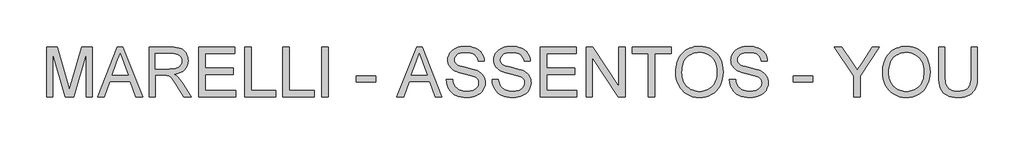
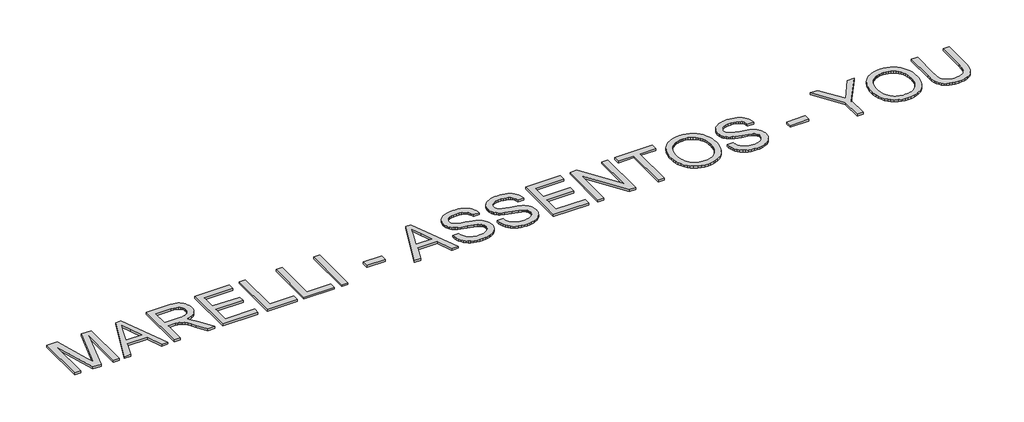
# One storey, part 35 of 35: 1 proxy.
"""IFC4 building model written with IfcOpenShell, lengths in millimetres."""

from ifc_helpers import new_model, si_unit, origin, origin_with_axes, place, context, project, spatial, polyline, outline, extrude, element, save

model = new_model("IFC4")

# Units and contexts
model_context = context("Model", 3, world=origin())
ifc_project = project(units=[si_unit("LENGTHUNIT", "METRE", prefix="MILLI")], contexts=[model_context])

# Site, building, storey
site = spatial("IfcSite", under=ifc_project)
building = spatial("IfcBuilding", under=site)
storey = spatial("IfcBuildingStorey", under=building, Name="Marelli - Linha YOU - Planta Baixa", Elevation=0.0)

# Proxy
placement = place(None, origin())
element("IfcBuildingElementProxy", 1, Name="1200mm Arial", ObjectType="1200mm Arial", at=placement, inside=storey, context=model_context, shape_type="SweptSolid", body=[
    extrude(outline(polyline([(-7871.16834, 28269.4336799), (-7871.16834, 29474.9094017), (-7611.8851098, 29474.9094017), (-7365.2570202, 28625.2491457), (-7315.5193745, 28447.7828712), (-7261.6614504, 28639.9644255), (-7019.1536392, 29474.9094017), (-6759.870409, 29474.9094017), (-6759.870409, 28269.4336799), (-6910.5548742, 28269.4336799), (-6910.5548742, 29324.2249365), (-7213.3953326, 28269.4336799), (-7417.6434164, 28269.4336799), (-7720.4838748, 29324.2249365), (-7720.4838748, 28269.4336799), (-7871.16834, 28269.4336799)])), origin_with_axes(), (0.0, 0.0, 1.0), 50.0),
    extrude(outline(polyline([(-6636.5563642, 28269.4336799), (-6155.3667145, 29474.9094017), (-6027.0494746, 29474.9094017), (-5545.8598249, 28269.4336799), (-5705.0791524, 28269.4336799), (-5843.108477, 28646.144843), (-6339.6020177, 28646.144843), (-6477.3370367, 28269.4336799), (-6636.5563642, 28269.4336799)]), holes=[polyline([(-6284.2725656, 28796.8293082), (-5898.1436235, 28796.8293082), (-6006.7423884, 29093.1950435), (-6091.2080945, 29324.2249365), (-6166.2560216, 29119.093936), (-6284.2725656, 28796.8293082)])]), origin_with_axes(), (0.0, 0.0, 1.0), 50.0),
    extrude(outline(polyline([(-5384.8746638, 28269.4336799), (-5384.8746638, 29474.9094017), (-4865.4252866, 29474.9094017), (-4790.8648032, 29472.8768537), (-4725.8140694, 29466.7792096), (-4670.2730852, 29456.6164695), (-4624.2418506, 29442.3886334), (-4585.044024, 29423.0012522), (-4550.0032639, 29397.3598771), (-4519.1195705, 29365.4645082), (-4492.3929435, 29327.3151453), (-4470.8258615, 29284.9627306), (-4455.420803, 29240.4582062), (-4446.1777679, 29193.8015722), (-4443.0967561, 29144.9928285), (-4448.2011188, 29083.0782887), (-4463.5142069, 29026.2405204), (-4489.0360203, 28974.4795237), (-4524.7665591, 28927.7952985), (-4546.5750636, 28906.7294558), (-4571.1656757, 28887.6777669), (-4628.6932227, 28855.616851), (-4697.3492001, 28831.6125509), (-4777.1336078, 28815.6648664), (-4727.4695384, 28783.2176744), (-4691.4906793, 28751.2119408), (-4629.7600805, 28678.0034238), (-4569.3538569, 28596.1128916), (-4368.3431347, 28269.4336799), (-4543.4549644, 28269.4336799), (-4700.3198472, 28519.2991311), (-4763.0805156, 28614.6541442), (-4813.6275017, 28684.6988761), (-4855.7499901, 28732.9282057), (-4893.2371654, 28762.8370119), (-4928.737778, 28780.384983), (-4964.9005781, 28791.5318075), (-5000.1436732, 28795.504933), (-5052.3093402, 28796.8293082), (-5234.1901986, 28796.8293082), (-5234.1901986, 28269.4336799), (-5384.8746638, 28269.4336799)]), holes=[polyline([(-5234.1901986, 28947.5137734), (-4896.9159854, 28947.5137734), (-4800.0526561, 28952.8480624), (-4759.7603805, 28959.5159235), (-4724.8943645, 28968.8509292), (-4694.6728586, 28981.1197937), (-4668.3141136, 28996.5892316), (-4645.8181296, 29015.2592429), (-4627.1849065, 29037.1298275), (-4612.5707943, 29061.1249306), (-4602.1321427, 29086.1684974), (-4595.8689517, 29112.2605279), (-4593.7812214, 29139.4010221), (-4597.763544, 29177.9366611), (-4609.7105118, 29212.9038448), (-4629.6221248, 29244.3025731), (-4657.4983829, 29272.132846), (-4693.9830798, 29294.9231356), (-4739.7200089, 29311.2019139), (-4794.7091701, 29320.9691808), (-4858.9505635, 29324.2249365), (-5234.1901986, 29324.2249365), (-5234.1901986, 28947.5137734)])]), origin_with_axes(), (0.0, 0.0, 1.0), 50.0),
    extrude(outline(polyline([(-4179.398942, 28269.4336799), (-4179.398942, 29474.9094017), (-3312.963267, 29474.9094017), (-3312.963267, 29324.2249365), (-4028.7144768, 29324.2249365), (-4028.7144768, 28966.3493316), (-3350.6343833, 28966.3493316), (-3350.6343833, 28815.6648664), (-4028.7144768, 28815.6648664), (-4028.7144768, 28420.1181452), (-3294.1277088, 28420.1181452), (-3294.1277088, 28269.4336799), (-4179.398942, 28269.4336799)])), origin_with_axes(), (0.0, 0.0, 1.0), 50.0),
    extrude(outline(polyline([(-3068.101011, 28269.4336799), (-3068.101011, 29474.9094017), (-2917.4165458, 29474.9094017), (-2917.4165458, 28420.1181452), (-2314.6786849, 28420.1181452), (-2314.6786849, 28269.4336799), (-3068.101011, 28269.4336799)])), origin_with_axes(), (0.0, 0.0, 1.0), 50.0),
    extrude(outline(polyline([(-2145.1586615, 28269.4336799), (-2145.1586615, 29474.9094017), (-1994.4741963, 29474.9094017), (-1994.4741963, 28420.1181452), (-1391.7363354, 28420.1181452), (-1391.7363354, 28269.4336799), (-2145.1586615, 28269.4336799)])), origin_with_axes(), (0.0, 0.0, 1.0), 50.0),
    extrude(outline(polyline([(-1203.3807538, 28269.4336799), (-1203.3807538, 29474.9094017), (-1052.6962886, 29474.9094017), (-1052.6962886, 28269.4336799), (-1203.3807538, 28269.4336799)])), origin_with_axes(), (0.0, 0.0, 1.0), 50.0),
    extrude(outline(polyline([(-374.6161951, 28627.3092848), (-374.6161951, 28777.9937501), (96.2727587, 28777.9937501), (96.2727587, 28627.3092848), (-374.6161951, 28627.3092848)])), origin_with_axes(), (0.0, 0.0, 1.0), 50.0),
    extrude(outline(polyline([(615.1335247, 28269.4336799), (1096.3231744, 29474.9094017), (1224.6404143, 29474.9094017), (1705.830064, 28269.4336799), (1546.6107365, 28269.4336799), (1408.5814119, 28646.144843), (912.0878712, 28646.144843), (774.3528522, 28269.4336799), (615.1335247, 28269.4336799)]), holes=[polyline([(967.4173233, 28796.8293082), (1353.5462655, 28796.8293082), (1244.9475005, 29093.1950435), (1160.4817944, 29324.2249365), (1085.4338674, 29119.093936), (967.4173233, 28796.8293082)])]), origin_with_axes(), (0.0, 0.0, 1.0), 50.0),
    extrude(outline(polyline([(1810.3085507, 28683.8159593), (1960.9930159, 28683.8159593), (1967.8908033, 28639.9552284), (1978.2834697, 28600.1963818), (1992.171015, 28564.5394194), (2009.5534393, 28532.9843413), (2031.3136593, 28504.8965509), (2058.3345918, 28479.641452), (2090.6162369, 28457.2190444), (2128.1585945, 28437.6293281), (2169.5821072, 28421.7276289), (2213.5072174, 28410.3692723), (2259.9339252, 28403.5542583), (2308.8622305, 28401.282587), (2352.1435473, 28403.0024353), (2392.8129018, 28408.1619803), (2430.8702942, 28416.761222), (2466.3157245, 28428.8001602), (2498.2754728, 28443.8465338), (2525.8758195, 28461.4680814), (2549.1167645, 28481.6648029), (2567.9983079, 28504.4366985), (2582.6124202, 28528.7996836), (2593.0510718, 28553.769674), (2599.3142628, 28579.3466697), (2601.4019931, 28605.5306707), (2599.8384946, 28631.6043071), (2595.1479992, 28655.9672923), (2587.3305068, 28678.6196261), (2576.3860174, 28699.5613087), (2560.6038798, 28718.9027046), (2538.2734427, 28736.7541784), (2509.3947061, 28753.1157301), (2473.96767, 28767.9873598), (2394.3947944, 28791.6421721), (2254.562848, 28825.5241038), (2110.5370469, 28863.5998903), (2057.9759069, 28881.9480049), (2018.3826071, 28899.8362669), (1978.1455139, 28923.8405671), (1943.3714683, 28950.5304058), (1914.0604704, 28979.9057831), (1890.21252, 29011.966699), (1871.7356468, 29046.3820596), (1858.5378802, 29082.8207713), (1850.6192203, 29121.2828339), (1847.979667, 29161.7682474), (1851.2446197, 29206.6406538), (1861.0394778, 29250.0231381), (1877.3642413, 29291.9157003), (1900.2189103, 29332.3183404), (1929.3459673, 29369.5847865), (1964.4878948, 29402.0687667), (2005.6446931, 29429.7702809), (2052.8163619, 29452.6893292), (2104.4118117, 29470.6511676), (2158.8399529, 29483.4810522), (2216.1007854, 29491.178983), (2276.1943094, 29493.7449599), (2341.7508809, 29491.0594213), (2403.3343269, 29483.0028056), (2460.9446473, 29469.5751128), (2514.5818422, 29450.7763428), (2563.2526302, 29426.7720427), (2605.9637298, 29397.7277591), (2642.7151412, 29363.6434923), (2673.5068641, 29324.5192421), (2698.0997755, 29281.4954428), (2716.254752, 29235.7125285), (2727.9717935, 29187.1704992), (2733.2509002, 29135.869355), (2582.5664349, 29135.869355), (2572.4864683, 29183.9515317), (2554.9017089, 29225.7797146), (2529.8121568, 29261.3539035), (2497.2178121, 29290.6740985), (2456.5116693, 29313.5931468), (2407.0867232, 29329.9638956), (2348.9429739, 29339.7863449), (2282.0804213, 29343.0604947), (2213.0841531, 29339.8231331), (2154.1310634, 29330.1110484), (2105.2211521, 29313.9242406), (2066.3544193, 29291.2627097), (2036.7399187, 29264.021048), (2015.586704, 29234.0938477), (2002.8947751, 29201.4811088), (1998.6641322, 29166.1828314), (2001.6623705, 29135.8141727), (2010.6570852, 29108.2782053), (2025.6482765, 29083.5749294), (2046.6359444, 29061.7043447), (2079.6717475, 29040.9925884), (2131.6902617, 29020.0601029), (2202.6914867, 28998.9068882), (2292.6754227, 28977.5329442), (2458.8109318, 28937.1395012), (2517.2673808, 28918.8741601), (2559.3162928, 28901.896406), (2605.5130744, 28876.1630605), (2645.2167387, 28847.2291416), (2678.4272858, 28815.0946493), (2705.1447157, 28779.7595836), (2725.6817281, 28741.4078856), (2740.3510227, 28700.2234963), (2749.1525994, 28656.2064156), (2752.0864583, 28609.3566435), (2748.711141, 28562.2217628), (2738.5851891, 28516.4664397), (2721.7086026, 28472.090674), (2698.0813814, 28429.0944658), (2668.1173929, 28389.1424812), (2632.2305043, 28353.899386), (2590.4207155, 28323.3651804), (2542.6880267, 28297.5398644), (2490.4211922, 28277.002852), (2435.0089667, 28262.3335574), (2376.4513501, 28253.5319807), (2314.7483425, 28250.5981218), (2237.6678674, 28253.7619069), (2167.1172978, 28263.2532624), (2103.0966336, 28279.0721882), (2045.6058748, 28301.2186843), (1994.2955335, 28329.7295389), (1948.8161218, 28364.6415403), (1909.1676398, 28405.9546883), (1875.3500874, 28453.6689831), (1848.1084257, 28506.2393202), (1828.1876156, 28562.1205953), (1815.5876573, 28621.3128083), (1810.3085507, 28683.8159593)])), origin_with_axes(), (0.0, 0.0, 1.0), 50.0),
    extrude(outline(polyline([(2921.6064817, 28683.8159593), (3072.2909469, 28683.8159593), (3079.1887343, 28639.9552284), (3089.5814007, 28600.1963818), (3103.468946, 28564.5394194), (3120.8513703, 28532.9843413), (3142.6115903, 28504.8965509), (3169.6325228, 28479.641452), (3201.9141679, 28457.2190444), (3239.4565255, 28437.6293281), (3280.8800382, 28421.7276289), (3324.8051484, 28410.3692723), (3371.2318562, 28403.5542583), (3420.1601616, 28401.282587), (3463.4414783, 28403.0024353), (3504.1108329, 28408.1619803), (3542.1682253, 28416.761222), (3577.6136555, 28428.8001602), (3609.5734038, 28443.8465338), (3637.1737505, 28461.4680814), (3660.4146956, 28481.6648029), (3679.296239, 28504.4366985), (3693.9103512, 28528.7996836), (3704.3490028, 28553.769674), (3710.6121938, 28579.3466697), (3712.6999241, 28605.5306707), (3711.1364256, 28631.6043071), (3706.4459302, 28655.9672923), (3698.6284378, 28678.6196261), (3687.6839485, 28699.5613087), (3671.9018109, 28718.9027046), (3649.5713737, 28736.7541784), (3620.6926371, 28753.1157301), (3585.265601, 28767.9873598), (3505.6927254, 28791.6421721), (3365.8607791, 28825.5241038), (3221.834978, 28863.5998903), (3169.2738379, 28881.9480049), (3129.6805382, 28899.8362669), (3089.4434449, 28923.8405671), (3054.6693993, 28950.5304058), (3025.3584014, 28979.9057831), (3001.510451, 29011.966699), (2983.0335778, 29046.3820596), (2969.8358113, 29082.8207713), (2961.9171513, 29121.2828339), (2959.277598, 29161.7682474), (2962.5425507, 29206.6406538), (2972.3374088, 29250.0231381), (2988.6621724, 29291.9157003), (3011.5168413, 29332.3183404), (3040.6438983, 29369.5847865), (3075.7858259, 29402.0687667), (3116.9426241, 29429.7702809), (3164.1142929, 29452.6893292), (3215.7097427, 29470.6511676), (3270.1378839, 29483.4810522), (3327.3987165, 29491.178983), (3387.4922404, 29493.7449599), (3453.0488119, 29491.0594213), (3514.6322579, 29483.0028056), (3572.2425784, 29469.5751128), (3625.8797733, 29450.7763428), (3674.5505612, 29426.7720427), (3717.2616609, 29397.7277591), (3754.0130722, 29363.6434923), (3784.8047952, 29324.5192421), (3809.3977066, 29281.4954428), (3827.552683, 29235.7125285), (3839.2697246, 29187.1704992), (3844.5488312, 29135.869355), (3693.864366, 29135.869355), (3683.7843993, 29183.9515317), (3666.1996399, 29225.7797146), (3641.1100879, 29261.3539035), (3608.5157431, 29290.6740985), (3567.8096003, 29313.5931468), (3518.3846543, 29329.9638956), (3460.2409049, 29339.7863449), (3393.3783523, 29343.0604947), (3324.3820841, 29339.8231331), (3265.4289944, 29330.1110484), (3216.5190831, 29313.9242406), (3177.6523503, 29291.2627097), (3148.0378497, 29264.021048), (3126.884635, 29234.0938477), (3114.1927062, 29201.4811088), (3109.9620632, 29166.1828314), (3112.9603015, 29135.8141727), (3121.9550163, 29108.2782053), (3136.9462076, 29083.5749294), (3157.9338754, 29061.7043447), (3190.9696786, 29040.9925884), (3242.9881927, 29020.0601029), (3313.9894177, 28998.9068882), (3403.9733538, 28977.5329442), (3570.1088628, 28937.1395012), (3628.5653118, 28918.8741601), (3670.6142239, 28901.896406), (3716.8110054, 28876.1630605), (3756.5146697, 28847.2291416), (3789.7252169, 28815.0946493), (3816.4426468, 28779.7595836), (3836.9796591, 28741.4078856), (3851.6489537, 28700.2234963), (3860.4505304, 28656.2064156), (3863.3843893, 28609.3566435), (3860.009072, 28562.2217628), (3849.8831201, 28516.4664397), (3833.0065336, 28472.090674), (3809.3793125, 28429.0944658), (3779.4153239, 28389.1424812), (3743.5284353, 28353.899386), (3701.7186466, 28323.3651804), (3653.9859577, 28297.5398644), (3601.7191232, 28277.002852), (3546.3068977, 28262.3335574), (3487.7492811, 28253.5319807), (3426.0462735, 28250.5981218), (3348.9657984, 28253.7619069), (3278.4152288, 28263.2532624), (3214.3945646, 28279.0721882), (3156.9038058, 28301.2186843), (3105.5934645, 28329.7295389), (3060.1140529, 28364.6415403), (3020.4655708, 28405.9546883), (2986.6480184, 28453.6689831), (2959.4063567, 28506.2393202), (2939.4855467, 28562.1205953), (2926.8855883, 28621.3128083), (2921.6064817, 28683.8159593)])), origin_with_axes(), (0.0, 0.0, 1.0), 50.0),
    extrude(outline(polyline([(4089.4110872, 28269.4336799), (4089.4110872, 29474.9094017), (4955.8467622, 29474.9094017), (4955.8467622, 29324.2249365), (4240.0955524, 29324.2249365), (4240.0955524, 28966.3493316), (4918.1756459, 28966.3493316), (4918.1756459, 28815.6648664), (4240.0955524, 28815.6648664), (4240.0955524, 28420.1181452), (4974.6823204, 28420.1181452), (4974.6823204, 28269.4336799), (4089.4110872, 28269.4336799)])), origin_with_axes(), (0.0, 0.0, 1.0), 50.0),
    extrude(outline(polyline([(5200.7090182, 28269.4336799), (5200.7090182, 29474.9094017), (5361.9884849, 29474.9094017), (5991.8024606, 28519.8877422), (5991.8024606, 29474.9094017), (6142.4869259, 29474.9094017), (6142.4869259, 28269.4336799), (5981.2074592, 28269.4336799), (5351.3934834, 29224.749645), (5351.3934834, 28269.4336799), (5200.7090182, 28269.4336799)])), origin_with_axes(), (0.0, 0.0, 1.0), 50.0),
    extrude(outline(polyline([(6707.5536705, 28269.4336799), (6707.5536705, 29324.2249365), (6312.0069492, 29324.2249365), (6312.0069492, 29474.9094017), (7253.7848569, 29474.9094017), (7253.7848569, 29324.2249365), (6858.2381357, 29324.2249365), (6858.2381357, 28269.4336799), (6707.5536705, 28269.4336799)])), origin_with_axes(), (0.0, 0.0, 1.0), 50.0),
    extrude(outline(polyline([(7366.7982058, 28856.2790386), (7369.3090004, 28929.0047106), (7376.8413843, 28997.6744835), (7389.3953574, 29062.2883574), (7406.9709197, 29122.8463323), (7429.5680712, 29179.3484083), (7457.186812, 29231.7945852), (7489.8271421, 29280.1848632), (7527.4890613, 29324.5192421), (7569.1195076, 29364.1815197), (7613.6654187, 29398.5554936), (7661.1267946, 29427.6411639), (7711.5036353, 29451.4385304), (7764.7959408, 29469.9475933), (7821.0037112, 29483.1683525), (7880.1269463, 29491.100808), (7942.1656463, 29493.7449599), (8023.2652321, 29488.7785529), (8100.2813278, 29473.8793321), (8173.2139333, 29449.0472975), (8242.0630487, 29414.2824489), (8304.8972935, 29370.6332502), (8359.7852872, 29319.148165), (8406.7270298, 29259.8271932), (8445.7225213, 29192.670335), (8476.3670915, 29119.2043006), (8498.2560702, 29040.9558002), (8511.3894574, 28957.9248339), (8515.7672532, 28870.1114017), (8511.1595312, 28781.1391411), (8497.3363652, 28696.9861347), (8474.2977552, 28617.6523825), (8442.0437013, 28543.1378843), (8401.3375586, 28475.410809), (8352.9426821, 28416.4393252), (8296.8590719, 28366.2234329), (8233.0867281, 28324.763132), (8164.1364451, 28292.31594), (8092.5190177, 28269.1393743), (8018.2344458, 28255.2334349), (7941.2827295, 28250.5981218), (7858.766798, 28255.7208786), (7780.7390268, 28271.0891489), (7707.199416, 28296.7029328), (7638.1479655, 28332.5622303), (7575.3872971, 28377.2782868), (7520.7200326, 28429.4623478), (7474.146172, 28489.1144134), (7435.6657153, 28556.2344834), (7405.5361799, 28628.1278223), (7384.0150832, 28702.0996945), (7371.1024252, 28778.1500999), (7366.7982058, 28856.2790386)]), holes=[polyline([(7517.482671, 28854.8075107), (7519.365767, 28803.4557827), (7525.0150549, 28754.9091549), (7534.4305347, 28709.1676273), (7547.6122064, 28666.2311999), (7564.5600701, 28626.0998728), (7585.2741257, 28588.7736458), (7609.7543732, 28554.2525191), (7638.0008127, 28522.5364926), (7669.0891405, 28494.1176085), (7702.0950533, 28469.4879089), (7737.0185509, 28448.6473939), (7773.8596335, 28431.5960634), (7812.6183009, 28418.3339175), (7853.2945533, 28408.8609561), (7895.8883905, 28403.1771793), (7940.3998127, 28401.282587), (7985.7251738, 28403.1955734), (8028.9949942, 28408.9345325), (8070.209274, 28418.4994644), (8109.3680131, 28431.890369), (8146.4712116, 28449.1072464), (8181.5188694, 28470.1500965), (8214.5109866, 28495.0189194), (8245.4475631, 28523.713715), (8273.4870689, 28555.9263822), (8297.787974, 28591.3488198), (8318.3502782, 28629.9810278), (8335.1739817, 28671.8230063), (8348.2590844, 28716.8747551), (8357.6055864, 28765.1362743), (8363.2134875, 28816.607564), (8365.0827879, 28871.288624), (8361.8822146, 28940.248104), (8352.2804945, 29004.6826355), (8336.2776277, 29064.5922184), (8313.8736142, 29119.9768528), (8285.3167743, 29170.1099717), (8250.8554284, 29214.2650081), (8210.4895765, 29252.4419622), (8164.2192186, 29284.6408338), (8113.4790944, 29310.1994354), (8059.7039437, 29328.4555794), (8002.8937666, 29339.4092659), (7943.0485631, 29343.0604947), (7900.2500914, 29341.3015589), (7858.9691331, 29336.0247515), (7819.2056879, 29327.2300726), (7780.959756, 29314.917522), (7744.2313373, 29299.0870999), (7709.0204318, 29279.7388062), (7675.3270396, 29256.872641), (7643.1511606, 29230.4886041), (7613.6976084, 29199.993486), (7588.1711964, 29164.7940768), (7566.5719248, 29124.8903767), (7548.8997934, 29080.2823855), (7535.1548024, 29030.9701033), (7525.3369516, 28976.9535301), (7519.4462412, 28918.2326659), (7517.482671, 28854.8075107)])]), origin_with_axes(), (0.0, 0.0, 1.0), 50.0),
    extrude(outline(polyline([(8666.4517184, 28683.8159593), (8817.1361836, 28683.8159593), (8824.033971, 28639.9552284), (8834.4266374, 28600.1963818), (8848.3141827, 28564.5394194), (8865.696607, 28532.9843413), (8887.456827, 28504.8965509), (8914.4777595, 28479.641452), (8946.7594046, 28457.2190444), (8984.3017622, 28437.6293281), (9025.7252749, 28421.7276289), (9069.6503851, 28410.3692723), (9116.0770929, 28403.5542583), (9165.0053982, 28401.282587), (9208.286715, 28403.0024353), (9248.9560695, 28408.1619803), (9287.0134619, 28416.761222), (9322.4588922, 28428.8001602), (9354.4186405, 28443.8465338), (9382.0189872, 28461.4680814), (9405.2599322, 28481.6648029), (9424.1414756, 28504.4366985), (9438.7555879, 28528.7996836), (9449.1942395, 28553.769674), (9455.4574305, 28579.3466697), (9457.5451608, 28605.5306707), (9455.9816623, 28631.6043071), (9451.2911669, 28655.9672923), (9443.4736745, 28678.6196261), (9432.5291851, 28699.5613087), (9416.7470475, 28718.9027046), (9394.4166104, 28736.7541784), (9365.5378738, 28753.1157301), (9330.1108377, 28767.9873598), (9250.5379621, 28791.6421721), (9110.7060158, 28825.5241038), (8966.6802146, 28863.5998903), (8914.1190746, 28881.9480049), (8874.5257748, 28899.8362669), (8834.2886816, 28923.8405671), (8799.514636, 28950.5304058), (8770.2036381, 28979.9057831), (8746.3556877, 29011.966699), (8727.8788145, 29046.3820596), (8714.6810479, 29082.8207713), (8706.762388, 29121.2828339), (8704.1228347, 29161.7682474), (8707.3877874, 29206.6406538), (8717.1826455, 29250.0231381), (8733.507409, 29291.9157003), (8756.362078, 29332.3183404), (8785.489135, 29369.5847865), (8820.6310626, 29402.0687667), (8861.7878608, 29429.7702809), (8908.9595296, 29452.6893292), (8960.5549794, 29470.6511676), (9014.9831206, 29483.4810522), (9072.2439532, 29491.178983), (9132.3374771, 29493.7449599), (9197.8940486, 29491.0594213), (9259.4774946, 29483.0028056), (9317.087815, 29469.5751128), (9370.7250099, 29450.7763428), (9419.3957979, 29426.7720427), (9462.1068975, 29397.7277591), (9498.8583089, 29363.6434923), (9529.6500319, 29324.5192421), (9554.2429432, 29281.4954428), (9572.3979197, 29235.7125285), (9584.1149612, 29187.1704992), (9589.3940679, 29135.869355), (9438.7096026, 29135.869355), (9428.629636, 29183.9515317), (9411.0448766, 29225.7797146), (9385.9553245, 29261.3539035), (9353.3609798, 29290.6740985), (9312.654837, 29313.5931468), (9263.229891, 29329.9638956), (9205.0861416, 29339.7863449), (9138.223589, 29343.0604947), (9069.2273208, 29339.8231331), (9010.2742311, 29330.1110484), (8961.3643198, 29313.9242406), (8922.497587, 29291.2627097), (8892.8830864, 29264.021048), (8871.7298717, 29234.0938477), (8859.0379428, 29201.4811088), (8854.8072999, 29166.1828314), (8857.8055382, 29135.8141727), (8866.8002529, 29108.2782053), (8881.7914443, 29083.5749294), (8902.7791121, 29061.7043447), (8935.8149152, 29040.9925884), (8987.8334294, 29020.0601029), (9058.8346544, 28998.9068882), (9148.8185905, 28977.5329442), (9314.9540995, 28937.1395012), (9373.4105485, 28918.8741601), (9415.4594606, 28901.896406), (9461.6562421, 28876.1630605), (9501.3599064, 28847.2291416), (9534.5704535, 28815.0946493), (9561.2878834, 28779.7595836), (9581.8248958, 28741.4078856), (9596.4941904, 28700.2234963), (9605.2957671, 28656.2064156), (9608.229626, 28609.3566435), (9604.8543087, 28562.2217628), (9594.7283568, 28516.4664397), (9577.8517703, 28472.090674), (9554.2245491, 28429.0944658), (9524.2605606, 28389.1424812), (9488.373672, 28353.899386), (9446.5638832, 28323.3651804), (9398.8311944, 28297.5398644), (9346.5643599, 28277.002852), (9291.1521344, 28262.3335574), (9232.5945178, 28253.5319807), (9170.8915102, 28250.5981218), (9093.8110351, 28253.7619069), (9023.2604655, 28263.2532624), (8959.2398013, 28279.0721882), (8901.7490425, 28301.2186843), (8850.4387012, 28329.7295389), (8804.9592896, 28364.6415403), (8765.3108075, 28405.9546883), (8731.4932551, 28453.6689831), (8704.2515934, 28506.2393202), (8684.3307833, 28562.1205953), (8671.730825, 28621.3128083), (8666.4517184, 28683.8159593)])), origin_with_axes(), (0.0, 0.0, 1.0), 50.0),
    extrude(outline(polyline([(10210.9674869, 28627.3092848), (10210.9674869, 28777.9937501), (10681.8564408, 28777.9937501), (10681.8564408, 28627.3092848), (10210.9674869, 28627.3092848)])), origin_with_axes(), (0.0, 0.0, 1.0), 50.0),
    extrude(outline(polyline([(11680.1410229, 28269.4336799), (11680.1410229, 28780.0538892), (11209.252069, 29474.9094017), (11387.0126491, 29474.9094017), (11638.3496282, 29103.790045), (11766.9611737, 28914.5515467), (11895.8670248, 29117.3281024), (12123.9538618, 29474.9094017), (12301.7144419, 29474.9094017), (11830.8254881, 28780.0538892), (11830.8254881, 28269.4336799), (11680.1410229, 28269.4336799)])), origin_with_axes(), (0.0, 0.0, 1.0), 50.0),
    extrude(outline(polyline([(12377.0566745, 28856.2790386), (12379.5674691, 28929.0047106), (12387.099853, 28997.6744835), (12399.6538261, 29062.2883574), (12417.2293884, 29122.8463323), (12439.82654, 29179.3484083), (12467.4452807, 29231.7945852), (12500.0856108, 29280.1848632), (12537.74753, 29324.5192421), (12579.3779763, 29364.1815197), (12623.9238874, 29398.5554936), (12671.3852633, 29427.6411639), (12721.762104, 29451.4385304), (12775.0544095, 29469.9475933), (12831.2621799, 29483.1683525), (12890.385415, 29491.100808), (12952.424115, 29493.7449599), (13033.5237008, 29488.7785529), (13110.5397965, 29473.8793321), (13183.4724021, 29449.0472975), (13252.3215175, 29414.2824489), (13315.1557622, 29370.6332502), (13370.0437559, 29319.148165), (13416.9854985, 29259.8271932), (13455.98099, 29192.670335), (13486.6255602, 29119.2043006), (13508.5145389, 29040.9558002), (13521.6479261, 28957.9248339), (13526.0257219, 28870.1114017), (13521.4179999, 28781.1391411), (13507.5948339, 28696.9861347), (13484.556224, 28617.6523825), (13452.30217, 28543.1378843), (13411.5960273, 28475.410809), (13363.2011508, 28416.4393252), (13307.1175406, 28366.2234329), (13243.3451968, 28324.763132), (13174.3949138, 28292.31594), (13102.7774864, 28269.1393743), (13028.4929145, 28255.2334349), (12951.5411982, 28250.5981218), (12869.0252667, 28255.7208786), (12790.9974955, 28271.0891489), (12717.4578847, 28296.7029328), (12648.4064342, 28332.5622303), (12585.6457658, 28377.2782868), (12530.9785013, 28429.4623478), (12484.4046407, 28489.1144134), (12445.924184, 28556.2344834), (12415.7946486, 28628.1278223), (12394.2735519, 28702.0996945), (12381.3608939, 28778.1500999), (12377.0566745, 28856.2790386)]), holes=[polyline([(12527.7411398, 28854.8075107), (12529.6242357, 28803.4557827), (12535.2735236, 28754.9091549), (12544.6890034, 28709.1676273), (12557.8706752, 28666.2311999), (12574.8185388, 28626.0998728), (12595.5325944, 28588.7736458), (12620.0128419, 28554.2525191), (12648.2592814, 28522.5364926), (12679.3476092, 28494.1176085), (12712.353522, 28469.4879089), (12747.2770196, 28448.6473939), (12784.1181022, 28431.5960634), (12822.8767696, 28418.3339175), (12863.553022, 28408.8609561), (12906.1468593, 28403.1771793), (12950.6582814, 28401.282587), (12995.9836425, 28403.1955734), (13039.2534629, 28408.9345325), (13080.4677427, 28418.4994644), (13119.6264818, 28431.890369), (13156.7296803, 28449.1072464), (13191.7773381, 28470.1500965), (13224.7694553, 28495.0189194), (13255.7060318, 28523.713715), (13283.7455376, 28555.9263822), (13308.0464427, 28591.3488198), (13328.6087469, 28629.9810278), (13345.4324504, 28671.8230063), (13358.5175531, 28716.8747551), (13367.8640551, 28765.1362743), (13373.4719562, 28816.607564), (13375.3412566, 28871.288624), (13372.1406833, 28940.248104), (13362.5389632, 29004.6826355), (13346.5360964, 29064.5922184), (13324.1320829, 29119.9768528), (13295.575243, 29170.1099717), (13261.1138971, 29214.2650081), (13220.7480452, 29252.4419622), (13174.4776873, 29284.6408338), (13123.7375631, 29310.1994354), (13069.9624124, 29328.4555794), (13013.1522353, 29339.4092659), (12953.3070318, 29343.0604947), (12910.5085602, 29341.3015589), (12869.2276018, 29336.0247515), (12829.4641566, 29327.2300726), (12791.2182247, 29314.917522), (12754.489806, 29299.0870999), (12719.2789005, 29279.7388062), (12685.5855083, 29256.872641), (12653.4096293, 29230.4886041), (12623.9560771, 29199.993486), (12598.4296651, 29164.7940768), (12576.8303935, 29124.8903767), (12559.1582621, 29080.2823855), (12545.4132711, 29030.9701033), (12535.5954203, 28976.9535301), (12529.7047099, 28918.2326659), (12527.7411398, 28854.8075107)])]), origin_with_axes(), (0.0, 0.0, 1.0), 50.0),
    extrude(outline(polyline([(14524.310304, 29474.9094017), (14674.9947692, 29474.9094017), (14674.9947692, 28779.465278), (14672.4379893, 28693.3533), (14664.7676497, 28616.6039188), (14651.9837504, 28549.2171343), (14634.0862913, 28491.1929466), (14609.5301682, 28440.3332608), (14576.7702765, 28394.4399819), (14535.8066163, 28353.5131099), (14486.6391877, 28317.5526449), (14429.2128082, 28288.260041), (14363.4722957, 28267.3367526), (14289.4176501, 28254.7827795), (14207.0488713, 28250.5981218), (14126.7126406, 28254.2401535), (14054.0467495, 28265.1662488), (13989.051198, 28283.3764075), (13931.7259861, 28308.8706298), (13882.0619168, 28341.2718365), (13840.0497929, 28380.2029487), (13805.6896146, 28425.6639662), (13778.9813817, 28477.6548892), (13758.9594042, 28537.9599453), (13744.6579916, 28608.3633621), (13736.0771441, 28688.8651397), (13733.2168615, 28779.465278), (13733.2168615, 29474.9094017), (13883.9013268, 29474.9094017), (13883.9013268, 28784.7627788), (13885.7591308, 28711.9129467), (13891.3325431, 28649.3454164), (13900.6215635, 28597.0601878), (13913.626192, 28555.057261), (13931.1557691, 28520.3016095), (13954.0196351, 28489.7582068), (13982.21779, 28463.427053), (14015.7502338, 28441.3081481), (14053.9731731, 28423.7969651), (14096.2428144, 28411.2889773), (14142.5591576, 28403.7841846), (14192.9222027, 28401.282587), (14275.9715631, 28406.2305998), (14346.1818419, 28421.0746383), (14376.4723257, 28432.2076672), (14403.5530391, 28445.8147025), (14427.423982, 28461.8957442), (14448.0851546, 28480.4507924), (14465.950424, 28502.5237121), (14481.4336574, 28529.1583685), (14494.534855, 28560.3547617), (14505.2540166, 28596.1128916), (14519.5462321, 28681.3143617), (14524.310304, 28784.7627788), (14524.310304, 29474.9094017)])), origin_with_axes(), (0.0, 0.0, 1.0), 50.0),
])

save(model, "model.ifc")
